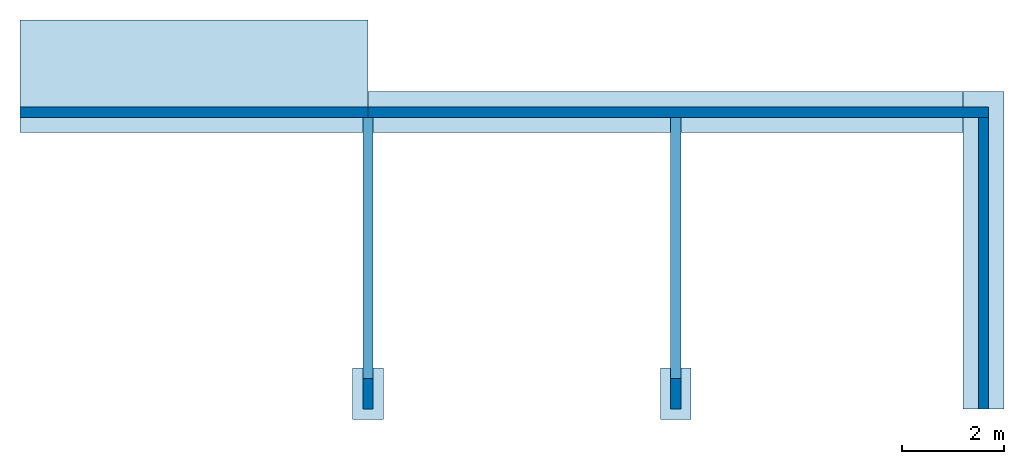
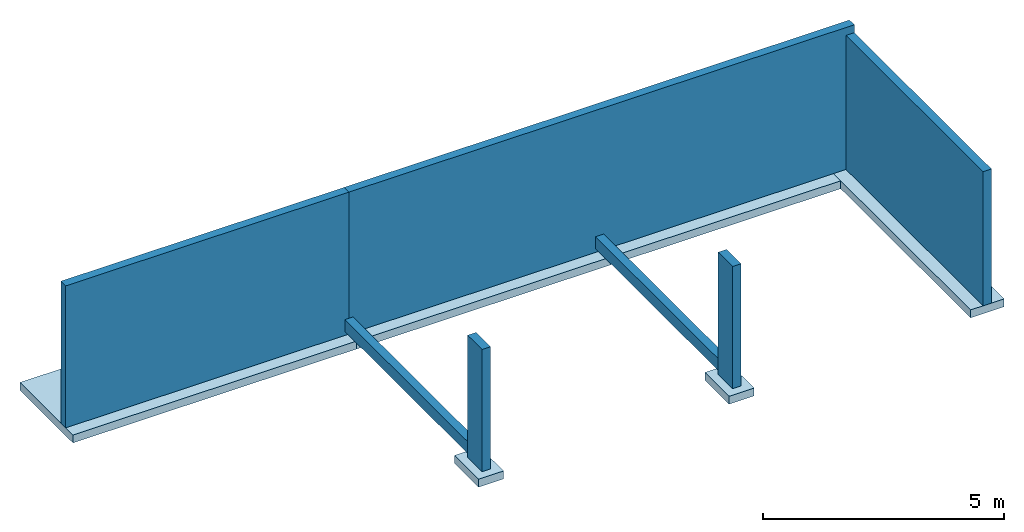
# One storey: 7 walls, 5 footings.
"""IFC2X3 building model written with IfcOpenShell, lengths in metres."""

import ifcopenshell
import ifcopenshell.guid

model = None  # the IFC model being written
_history = None  # IfcOwnerHistory: only IFC2X3 demands one
_inside = {}  # id of a spatial element -> (the spatial element, [elements in it])
_under = {}  # id of a project, library or spatial element -> (it, [spatial elements below it])
_declared = {}  # id of a project -> (the project, [libraries it declares])
_typed = {}  # id of a type object -> (the type object, [elements of that type])
_made_of = {}  # id of a material, layer set ... -> (it, [elements and type objects made of it])


def new_model(schema):
    """Start an empty IFC model of exactly this schema.

    Asked for "IFC4X3", IfcOpenShell would pick the latest addendum, in which some entities
    have other attributes; the version numbers below select the first issue.
    IFC2X3 requires an IfcOwnerHistory on every rooted entity: one is made here for all.
    """
    global model, _history
    if schema == "IFC4X3":
        model = ifcopenshell.file(schema_version=(4, 3, 0, 0))
    else:
        model = ifcopenshell.file(schema=schema)
    _inside.clear()
    _under.clear()
    _declared.clear()
    _typed.clear()
    _made_of.clear()
    _history = None
    if model.schema == "IFC2X3":
        org = make("IfcOrganization", Name="unknown")
        user = make(
            "IfcPersonAndOrganization",
            ThePerson=make("IfcPerson", FamilyName="unknown"),
            TheOrganization=org,
        )
        app = make(
            "IfcApplication",
            ApplicationDeveloper=org,
            Version="unknown",
            ApplicationFullName="unknown",
            ApplicationIdentifier="unknown",
        )
        _history = make(
            "IfcOwnerHistory",
            OwningUser=user,
            OwningApplication=app,
            ChangeAction="ADDED",
            CreationDate=0,
        )
    return model


def make(cls, **values):
    """One entity of the class cls with the attributes given. An attribute that is None is left unset."""
    return model.create_entity(
        cls, **{name: value for name, value in values.items() if value is not None}
    )


def entity(cls, *values):
    """Any entity or typed value of the class cls, its attributes in the order of the schema. None: left unset."""
    e = model.create_entity(cls)
    for i, value in enumerate(values):
        if value is not None:
            e[i] = value
    return e


def rooted(cls, **values):
    """An entity with a GlobalId (a new one), such as an element, a storey or a relation."""
    return make(cls, GlobalId=ifcopenshell.guid.new(), OwnerHistory=_history, **values)


def si_unit(unit_type, name, prefix=None):
    """IfcSIUnit, for example si_unit("LENGTHUNIT", "METRE", prefix="MILLI")."""
    return make("IfcSIUnit", UnitType=unit_type, Prefix=prefix, Name=name)


def converted_unit(unit_type, name, factor, base, dimensions=None, offset=None):
    """IfcConversionBasedUnit, such as the inch: factor (a typed value) times the base unit."""
    return make(
        "IfcConversionBasedUnit"
        if offset is None
        else "IfcConversionBasedUnitWithOffset",
        ConversionOffset=offset,
        Dimensions=None
        if dimensions is None
        else entity("IfcDimensionalExponents", *dimensions),
        UnitType=unit_type,
        Name=name,
        ConversionFactor=make(
            "IfcMeasureWithUnit", ValueComponent=factor, UnitComponent=base
        ),
    )


def derived_unit(unit_type, elements):
    """IfcDerivedUnit: a product of units, each with its exponent."""
    return make(
        "IfcDerivedUnit",
        Elements=[
            make("IfcDerivedUnitElement", Unit=unit, Exponent=power)
            for unit, power in elements
        ],
        UnitType=unit_type,
    )


def assignment(units):
    """IfcUnitAssignment: the units of a project."""
    return None if units is None else make("IfcUnitAssignment", Units=units)


def point(xyz):
    """IfcCartesianPoint."""
    return None if xyz is None else make("IfcCartesianPoint", Coordinates=xyz)


def direction(xyz):
    """IfcDirection."""
    return None if xyz is None else make("IfcDirection", DirectionRatios=xyz)


def frame(location, z_axis=None, x_axis=None):
    """IfcAxis2Placement3D, a coordinate frame: its origin and axes. An axis left out is left unset."""
    return make(
        "IfcAxis2Placement3D",
        Location=point(location),
        Axis=direction(z_axis),
        RefDirection=direction(x_axis),
    )


def frame_2d(location, x_axis=None):
    """IfcAxis2Placement2D, a coordinate frame in the plane: its origin and x axis."""
    return make(
        "IfcAxis2Placement2D", Location=point(location), RefDirection=direction(x_axis)
    )


def origin():
    """The frame at (0, 0, 0) with its axes left unset."""
    return frame((0.0, 0.0, 0.0))


def origin_2d_with_axis():
    """The frame at (0, 0) in the plane with the x axis (1, 0) written out."""
    return frame_2d((0.0, 0.0), x_axis=(1.0, 0.0))


def place(relative_to, where):
    """IfcLocalPlacement: puts the frame where relative to a parent placement (None: the world)."""
    return make(
        "IfcLocalPlacement", PlacementRelTo=relative_to, RelativePlacement=where
    )


def context(
    kind, dimensions, precision=None, world=None, true_north=None, identifier=None
):
    """IfcGeometricRepresentationContext, for example the 3D "Model" context."""
    return make(
        "IfcGeometricRepresentationContext",
        ContextIdentifier=identifier,
        ContextType=kind,
        CoordinateSpaceDimension=dimensions,
        Precision=precision,
        WorldCoordinateSystem=world,
        TrueNorth=true_north,
    )


def subcontext(parent, identifier, kind, view, scale=None):
    """IfcGeometricRepresentationSubContext, for example "Body" below "Model"."""
    return make(
        "IfcGeometricRepresentationSubContext",
        ContextIdentifier=identifier,
        ContextType=kind,
        ParentContext=parent,
        TargetScale=scale,
        TargetView=view,
    )


def project(units=None, contexts=None):
    """IfcProject with its units and contexts."""
    return rooted(
        "IfcProject",
        Name="project",
        RepresentationContexts=contexts,
        UnitsInContext=assignment(units),
    )


def spatial(cls, under=None, at=None, **own):
    """A site, building, storey or space (cls), placed at a placement, below another one or the project."""
    s = rooted(cls, ObjectPlacement=at, **own)
    if under is not None:
        _under.setdefault(under.id(), (under, []))[1].append(s)
    return s


def polyline(points):
    """IfcPolyline through the points."""
    return make("IfcPolyline", Points=[point(p) for p in points])


def profile(cls, at=None, kind="AREA", **sizes):
    """A parametric profile (cls). Its sizes go by their IFC names, for example OverallWidth=200.0."""
    return make(cls, ProfileType=kind, Position=at, **sizes)


def rectangle(**sizes):
    """IfcRectangleProfileDef."""
    return profile("IfcRectangleProfileDef", **sizes)


def extrude(swept, where, along, depth):
    """IfcExtrudedAreaSolid: the profile swept, set in the frame where, extruded along a direction by depth."""
    return make(
        "IfcExtrudedAreaSolid",
        SweptArea=swept,
        Position=where,
        ExtrudedDirection=direction(along),
        Depth=depth,
    )


def clip(a, b, op="DIFFERENCE"):
    """IfcBooleanClippingResult: the solid a cut by the half space b."""
    return make(
        "IfcBooleanClippingResult", Operator=op, FirstOperand=a, SecondOperand=b
    )


def bounded_halfspace(plane, agree, where, boundary):
    """IfcPolygonalBoundedHalfSpace: a half space limited to a polygon's prism."""
    return make(
        "IfcPolygonalBoundedHalfSpace",
        BaseSurface=make("IfcPlane", Position=plane),
        AgreementFlag=agree,
        Position=where,
        PolygonalBoundary=boundary,
    )


def shape(context_of_items, identifier, shape_type, items):
    """IfcShapeRepresentation: the items that make up one representation, for example the "Body"."""
    return make(
        "IfcShapeRepresentation",
        ContextOfItems=context_of_items,
        RepresentationIdentifier=identifier,
        RepresentationType=shape_type,
        Items=items,
    )


def material(Name=None, Category=None):
    """IfcMaterial."""
    return make("IfcMaterial", Name=Name, Category=Category)


def layer(
    of_material, thickness, ventilated=None, Name=None, Category=None, Priority=None
):
    """IfcMaterialLayer: one layer of a wall or slab, of a material (None: an air gap)."""
    return make(
        "IfcMaterialLayer",
        Material=of_material,
        LayerThickness=thickness,
        IsVentilated=ventilated,
        Name=Name,
        Category=Category,
        Priority=Priority,
    )


def layer_set(layers, Name=None):
    """IfcMaterialLayerSet."""
    return make("IfcMaterialLayerSet", MaterialLayers=layers, LayerSetName=Name)


def layer_usage(for_layer_set, set_direction, sense, offset, extent=None):
    """IfcMaterialLayerSetUsage: how a layer set lies in its element."""
    return make(
        "IfcMaterialLayerSetUsage",
        ForLayerSet=for_layer_set,
        LayerSetDirection=set_direction,
        DirectionSense=sense,
        OffsetFromReferenceLine=offset,
        ReferenceExtent=extent,
    )


def made_of(thing, what):
    """Note that an element or type object is made of a material, layer set ...; save() writes the relation."""
    if what is not None:
        _made_of.setdefault(what.id(), (what, []))[1].append(thing)
    return thing


def type_object(cls, material=None, **own):
    """A type object (cls), such as IfcWallType, which elements share."""
    return made_of(rooted(cls, **own), material)


def element(
    cls,
    number,
    at=None,
    inside=None,
    cuts=None,
    type_object=None,
    material=None,
    context=None,
    identifier="Body",
    shape_type=None,
    held_by="IfcProductDefinitionShape",
    body=None,
    shapes=None,
    **own,
):
    """One element of the class cls, such as IfcWall. Its Tag is "e" and its number.

    at: its placement. inside: the storey or other place that contains it. cuts: it is an
    opening in that element (IfcRelVoidsElement). A single representation is given by context,
    identifier, shape_type and body (its items); several are given by shapes. held_by: the class
    of the entity that holds the representations. save() writes the other relations.
    """
    e = rooted(cls, Tag="e%d" % number, ObjectPlacement=at, **own)
    if body is not None:
        shapes = [shape(context, identifier, shape_type, body)]
    if shapes is not None:
        e.Representation = make(held_by, Representations=shapes)
    if inside is not None:
        _inside.setdefault(inside.id(), (inside, []))[1].append(e)
    if cuts is not None:
        rooted(
            "IfcRelVoidsElement", RelatingBuildingElement=cuts, RelatedOpeningElement=e
        )
    if type_object is not None:
        _typed.setdefault(type_object.id(), (type_object, []))[1].append(e)
    return made_of(e, material)


def aggregate(whole, parts):
    """IfcRelAggregates: a whole, such as a stair, and the parts it consists of."""
    return rooted("IfcRelAggregates", RelatingObject=whole, RelatedObjects=parts)


def save(model, path):
    """Write the relations noted so far, then the file.

    IfcRelAggregates (storeys below a building ...), IfcRelContainedInSpatialStructure (elements
    in a storey), IfcRelDefinesByType, IfcRelAssociatesMaterial and IfcRelDeclares: one each for
    every whole, place, type object, material and project.
    """
    for whole, parts in _under.values():
        aggregate(whole, parts)
    for where, things in _inside.values():
        rooted(
            "IfcRelContainedInSpatialStructure",
            RelatedElements=things,
            RelatingStructure=where,
        )
    for kind, things in _typed.values():
        rooted("IfcRelDefinesByType", RelatedObjects=things, RelatingType=kind)
    for what, things in _made_of.values():
        rooted("IfcRelAssociatesMaterial", RelatedObjects=things, RelatingMaterial=what)
    for by, libraries in _declared.values():
        rooted("IfcRelDeclares", RelatingContext=by, RelatedDefinitions=libraries)
    model.write(path)


model = new_model("IFC2X3")

# Units and contexts
model_context = context("Model", 3, precision=1e-05, world=origin(), true_north=direction((6.12303176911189e-17, 1.0)))
context_of_model = context(None, 3, precision=1e-05, world=origin(), true_north=direction((6.12303176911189e-17, 1.0)))
body_context = subcontext(model_context, "Body", "Model", "MODEL_VIEW")
ifc_project = project(units=[si_unit("LENGTHUNIT", "METRE"), si_unit("AREAUNIT", "SQUARE_METRE"), si_unit("VOLUMEUNIT", "CUBIC_METRE"), converted_unit("PLANEANGLEUNIT", "DEGREE", entity("IfcRatioMeasure", 0.0174532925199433), si_unit("PLANEANGLEUNIT", "RADIAN"), dimensions=[0, 0, 0, 0, 0, 0, 0]), si_unit("MASSUNIT", "GRAM", prefix="KILO"), si_unit("TIMEUNIT", "SECOND"), si_unit("FREQUENCYUNIT", "HERTZ"), si_unit("THERMODYNAMICTEMPERATUREUNIT", "DEGREE_CELSIUS"), derived_unit("THERMALTRANSMITTANCEUNIT", [(si_unit("MASSUNIT", "GRAM", prefix="KILO"), 1), (si_unit("THERMODYNAMICTEMPERATUREUNIT", "KELVIN"), -1), (si_unit("TIMEUNIT", "SECOND"), -3)]), derived_unit("VOLUMETRICFLOWRATEUNIT", [(si_unit("LENGTHUNIT", "METRE"), 3), (si_unit("TIMEUNIT", "SECOND"), -1)]), si_unit("ELECTRICCURRENTUNIT", "AMPERE"), si_unit("ELECTRICVOLTAGEUNIT", "VOLT"), si_unit("POWERUNIT", "WATT"), si_unit("FORCEUNIT", "NEWTON", prefix="KILO"), si_unit("ILLUMINANCEUNIT", "LUX"), si_unit("LUMINOUSFLUXUNIT", "LUMEN"), si_unit("LUMINOUSINTENSITYUNIT", "CANDELA"), si_unit("PRESSUREUNIT", "PASCAL")], contexts=[model_context, context_of_model])

# Site, building, storey
site_placement = place(None, origin())
site = spatial("IfcSite", under=ifc_project, at=site_placement, Name="Default", CompositionType="ELEMENT")
building_placement = place(site_placement, origin())
building = spatial("IfcBuilding", under=site, at=building_placement, CompositionType="ELEMENT")
storey_placement = place(building_placement, frame((0.0, 0.0, -0.6)))
storey = spatial("IfcBuildingStorey", under=building, at=storey_placement, Name="4 - Fondations", CompositionType="ELEMENT", Elevation=-0.6)

# Footings
ifc_material_1 = material(Name="Béton - Béton coulé sur place")
footing_1_placement = place(storey_placement, frame((-5.3737146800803, -0.371684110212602, -0.2)))
element("IfcFooting", 1, at=footing_1_placement, inside=storey, material=ifc_material_1, Name="Base rectangulaire:100 x 60 x 25", ObjectType="Base rectangulaire:100 x 60 x 25", PredefinedType="NOTDEFINED", context=body_context, shape_type="SweptSolid", body=[
    extrude(rectangle(XDim=0.6, YDim=1.0, at=origin_2d_with_axis()), frame((0.3, 0.5, 0.0), z_axis=(0.0, 0.0, 1.0), x_axis=(-1.0, 0.0, 0.0)), (0.0, 0.0, 1.0), 0.2),
    extrude(rectangle(XDim=0.6, YDim=1.0, at=origin_2d_with_axis()), frame((0.3, 0.5, 0.0), z_axis=(0.0, 0.0, 1.0), x_axis=(-1.0, 0.0, 0.0)), (0.0, 0.0, 1.0), 0.2),
])
footing_2_placement = place(storey_placement, frame((0.636285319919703, -0.371684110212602, -0.2)))
element("IfcFooting", 2, at=footing_2_placement, inside=storey, material=ifc_material_1, Name="Base rectangulaire:100 x 60 x 25", ObjectType="Base rectangulaire:100 x 60 x 25", PredefinedType="NOTDEFINED", context=body_context, shape_type="SweptSolid", body=[
    extrude(rectangle(XDim=0.6, YDim=1.0, at=frame_2d((5.55111512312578e-17, 0.0), x_axis=(1.0, 0.0))), frame((0.3, 0.5, 0.0), z_axis=(0.0, 0.0, 1.0), x_axis=(-1.0, 0.0, 0.0)), (0.0, 0.0, 1.0), 0.2),
    extrude(rectangle(XDim=0.6, YDim=1.0, at=frame_2d((5.55111512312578e-17, 0.0), x_axis=(1.0, 0.0))), frame((0.3, 0.5, 0.0), z_axis=(0.0, 0.0, 1.0), x_axis=(-1.0, 0.0, 0.0)), (0.0, 0.0, 1.0), 0.2),
])
ifc_material_2 = material(Name="Maçonnerie - Béton")
footing_3_placement = place(storey_placement, frame((6.5462853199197, -0.171684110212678, -0.2)))
element("IfcFooting", 3, at=footing_3_placement, inside=storey, material=ifc_material_2, Name="Semelle filante:0.6 x 0.2", ObjectType="Semelle filante:0.6 x 0.2", PredefinedType="STRIP_FOOTING", context=body_context, shape_type="SweptSolid", body=[
    extrude(rectangle(XDim=6.2, YDim=0.8, at=frame_2d((0.460000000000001, 0.0799999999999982), x_axis=(1.0, 0.0))), frame((0.320000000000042, 3.56, 0.0), z_axis=(0.0, 0.0, 1.0), x_axis=(0.0, -1.0, 0.0)), (0.0, 0.0, 1.0), 0.2),
])
footing_4_placement = place(storey_placement, frame((-11.8697729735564, 5.22831588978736, -0.19999999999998)))
element("IfcFooting", 4, at=footing_4_placement, inside=storey, material=ifc_material_2, Name="Semelle filante:cantil 2 x 0.2", ObjectType="Semelle filante:cantil 2 x 0.2", PredefinedType="STRIP_FOOTING", context=body_context, shape_type="SweptSolid", body=[
    extrude(rectangle(XDim=6.7960582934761, YDim=2.2, at=frame_2d((-0.679605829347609, 0.0600000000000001), x_axis=(1.0, 0.0))), frame((4.07763497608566, 1.04000000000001, 0.0)), (0.0, 0.0, 1.0), 0.2),
])
footing_5_placement = place(storey_placement, frame((-5.07371468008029, 5.22831588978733, -0.19999999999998)))
element("IfcFooting", 5, at=footing_5_placement, inside=storey, material=ifc_material_2, Name="Semelle filante:0.6 x 0.2", ObjectType="Semelle filante:0.6 x 0.2", PredefinedType="STRIP_FOOTING", context=body_context, shape_type="SweptSolid", body=[
    extrude(rectangle(XDim=11.62, YDim=0.8, at=frame_2d((3.10862446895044e-15, 5.55111512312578e-16), x_axis=(1.0, 0.0))), frame((5.81000000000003, 0.400000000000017, 0.0)), (0.0, 0.0, 1.0), 0.2),
])

# Walls
ifc_material_3 = material(Name="Mur par défaut")
ifc_layer = layer(ifc_material_3, 0.2)
ifc_layer_set = layer_set([ifc_layer], Name="Mur de base:Générique - Ext. 200 mm")
ifc_layer_usage_1 = layer_usage(ifc_layer_set, "AXIS2", "NEGATIVE", 0.1)
wall_type = type_object("IfcWallType", Name="Mur de base:Générique - Ext. 200 mm", PredefinedType="STANDARD", material=ifc_layer_set)
wall_1_placement = place(storey_placement, frame((-11.8697729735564, 5.62831588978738, 0.0)))
element("IfcWallStandardCase", 6, at=wall_1_placement, inside=storey, type_object=wall_type, material=ifc_layer_usage_1, Name="Mur de base:Générique - Ext. 200 mm", ObjectType="Mur de base:Générique - Ext. 200 mm", context=body_context, shape_type="SweptSolid", body=[
    extrude(rectangle(XDim=6.7960582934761, YDim=0.2, at=frame_2d((3.39802914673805, 7.63278329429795e-17), x_axis=(-1.0, 0.0))), origin(), (0.0, 0.0, 1.0), 3.59999999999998),
])
ifc_layer_usage_2 = layer_usage(ifc_layer_set, "AXIS2", "NEGATIVE", 0.1)
wall_2_placement = place(storey_placement, frame((6.94628531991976, 5.52831588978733, 0.0), z_axis=(0.0, 0.0, 1.0), x_axis=(0.0, -1.0, 0.0)))
element("IfcWallStandardCase", 7, at=wall_2_placement, inside=storey, type_object=wall_type, material=ifc_layer_usage_2, Name="Mur de base:Générique - Ext. 200 mm", ObjectType="Mur de base:Générique - Ext. 200 mm", context=body_context, shape_type="Clipping", body=[
    clip(extrude(rectangle(XDim=5.7, YDim=0.2, at=frame_2d((2.85, 0.0), x_axis=(-1.0, 0.0))), origin(), (0.0, 0.0, 1.0), 3.4), bounded_halfspace(frame((0.0, -0.1, 3.4), z_axis=(0.0, 0.0, -1.0), x_axis=(-1.0, 0.0, 0.0)), True, frame((0.0, -0.1, 3.4)), polyline([(0.0, 0.0), (5.7, 0.0), (5.7, 0.2), (1.0, 0.2), (0.0, 0.2), (0.0, 0.0)]))),
])
ifc_layer_usage_3 = layer_usage(ifc_layer_set, "AXIS2", "NEGATIVE", 0.1)
wall_3_placement = place(storey_placement, frame((0.936285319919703, 0.428315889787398, 0.0), z_axis=(0.0, 0.0, 1.0), x_axis=(0.0, -1.0, 0.0)))
element("IfcWallStandardCase", 8, at=wall_3_placement, inside=storey, type_object=wall_type, material=ifc_layer_usage_3, Name="Mur de base:Générique - Ext. 200 mm", ObjectType="Mur de base:Générique - Ext. 200 mm", context=body_context, shape_type="SweptSolid", body=[
    extrude(rectangle(XDim=0.6, YDim=0.2, at=frame_2d((0.3, -4.85722573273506e-17), x_axis=(-1.0, 0.0))), origin(), (0.0, 0.0, 1.0), 3.1),
])
ifc_layer_usage_4 = layer_usage(ifc_layer_set, "AXIS2", "POSITIVE", -0.1)
wall_4_placement = place(storey_placement, frame((-5.0737146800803, 0.428315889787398, 0.0), z_axis=(0.0, 0.0, 1.0), x_axis=(0.0, -1.0, 0.0)))
element("IfcWallStandardCase", 9, at=wall_4_placement, inside=storey, type_object=wall_type, material=ifc_layer_usage_4, Name="Mur de base:Générique - Ext. 200 mm", ObjectType="Mur de base:Générique - Ext. 200 mm", context=body_context, shape_type="SweptSolid", body=[
    extrude(rectangle(XDim=0.6, YDim=0.2, at=frame_2d((0.3, -3.46944695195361e-17), x_axis=(-1.0, 0.0))), origin(), (0.0, 0.0, 1.0), 3.1),
])
ifc_layer_usage_5 = layer_usage(ifc_layer_set, "AXIS2", "NEGATIVE", 0.1)
wall_5_placement = place(storey_placement, frame((-5.0737146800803, 0.428315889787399, 0.1), z_axis=(0.0, 0.0, 1.0), x_axis=(0.0, 1.0, 0.0)))
element("IfcWallStandardCase", 10, at=wall_5_placement, inside=storey, type_object=wall_type, material=ifc_layer_usage_5, Name="Mur de base:Générique - Ext. 200 mm", ObjectType="Mur de base:Générique - Ext. 200 mm", context=body_context, shape_type="SweptSolid", body=[
    extrude(rectangle(XDim=5.09999999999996, YDim=0.2, at=frame_2d((2.54999999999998, 0.0), x_axis=(-1.0, 0.0))), origin(), (0.0, 0.0, 1.0), 0.3),
])
ifc_layer_usage_6 = layer_usage(ifc_layer_set, "AXIS2", "NEGATIVE", 0.1)
wall_6_placement = place(storey_placement, frame((0.936285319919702, 0.428315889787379, 0.1), z_axis=(0.0, 0.0, 1.0), x_axis=(0.0, 1.0, 0.0)))
element("IfcWallStandardCase", 11, at=wall_6_placement, inside=storey, type_object=wall_type, material=ifc_layer_usage_6, Name="Mur de base:Générique - Ext. 200 mm", ObjectType="Mur de base:Générique - Ext. 200 mm", context=body_context, shape_type="SweptSolid", body=[
    extrude(rectangle(XDim=5.09999999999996, YDim=0.2, at=frame_2d((2.54999999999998, 0.0), x_axis=(-1.0, 0.0))), origin(), (0.0, 0.0, 1.0), 0.3),
])
ifc_layer_usage_7 = layer_usage(ifc_layer_set, "AXIS2", "NEGATIVE", 0.1)
wall_7_placement = place(storey_placement, frame((-5.07371468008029, 5.62831588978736, 0.0)))
element("IfcWallStandardCase", 12, at=wall_7_placement, inside=storey, type_object=wall_type, material=ifc_layer_usage_7, Name="Mur de base:Générique - Ext. 200 mm", ObjectType="Mur de base:Générique - Ext. 200 mm", context=body_context, shape_type="SweptSolid", body=[
    extrude(rectangle(XDim=12.1200000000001, YDim=0.2, at=frame_2d((6.06000000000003, 7.63278329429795e-17), x_axis=(-1.0, 0.0))), origin(), (0.0, 0.0, 1.0), 3.59999999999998),
])

save(model, "model.ifc")
